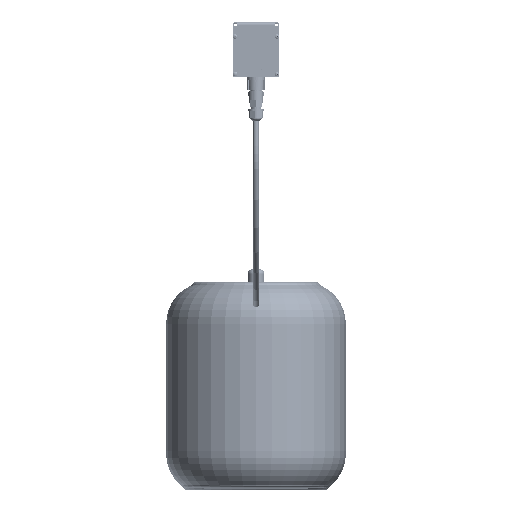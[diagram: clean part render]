
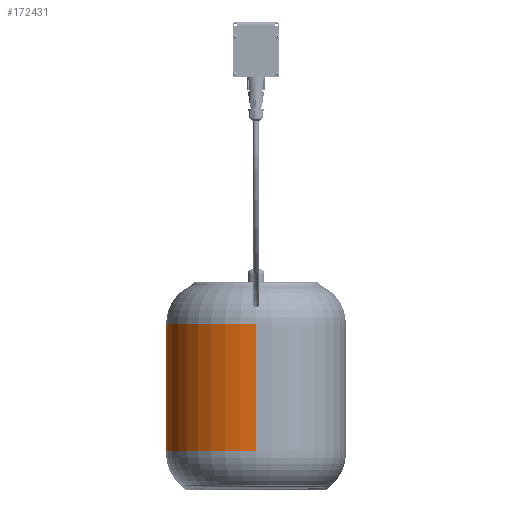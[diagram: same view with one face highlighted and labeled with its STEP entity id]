
A CAD part, top view. The second image highlights one B-rep face of the part: STEP entity #172431.
In plain terms, the highlighted cylindrical face has radius 107.5 mm (diameter 215 mm), a partial arc.
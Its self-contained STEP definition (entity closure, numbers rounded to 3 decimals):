
#337 = AXIS2_PLACEMENT_3D ( 'NONE', #171730, #23431, #74309 ) ;
#6753 = CARTESIAN_POINT ( 'NONE',  ( 0., 190.814, 0. ) ) ;
#7066 = VERTEX_POINT ( 'NONE', #70179 ) ;
#10774 = CARTESIAN_POINT ( 'NONE',  ( 0., 38.175, 0. ) ) ;
#11294 = EDGE_CURVE ( 'NONE', #44445, #162858, #138278, .T. ) ;
#12910 = DIRECTION ( 'NONE',  ( 0., 0., -1. ) ) ;
#23431 = DIRECTION ( 'NONE',  ( 0., -1., 0. ) ) ;
#28917 = CARTESIAN_POINT ( 'NONE',  ( 0., 38.175, -107.5 ) ) ;
#32264 = ORIENTED_EDGE ( 'NONE', *, *, #11294, .T. ) ;
#42855 = VECTOR ( 'NONE', #167981, 1000. ) ;
#44445 = VERTEX_POINT ( 'NONE', #212394 ) ;
#45492 = ORIENTED_EDGE ( 'NONE', *, *, #136469, .T. ) ;
#47658 = ORIENTED_EDGE ( 'NONE', *, *, #135105, .F. ) ;
#51446 = VERTEX_POINT ( 'NONE', #28917 ) ;
#51896 = AXIS2_PLACEMENT_3D ( 'NONE', #6753, #204820, #107387 ) ;
#57007 = FACE_OUTER_BOUND ( 'NONE', #213421, .T. ) ;
#61126 = DIRECTION ( 'NONE',  ( 0., -1., 0. ) ) ;
#64158 = VECTOR ( 'NONE', #61126, 1000. ) ;
#70179 = CARTESIAN_POINT ( 'NONE',  ( 0., 38.175, 107.5 ) ) ;
#73693 = ORIENTED_EDGE ( 'NONE', *, *, #212624, .F. ) ;
#74309 = DIRECTION ( 'NONE',  ( 0., 0., -1. ) ) ;
#93066 = DIRECTION ( 'NONE',  ( 0., -1., 0. ) ) ;
#93734 = CARTESIAN_POINT ( 'NONE',  ( 0., 190.814, 107.5 ) ) ;
#107387 = DIRECTION ( 'NONE',  ( 0., 0., -1. ) ) ;
#124108 = CYLINDRICAL_SURFACE ( 'NONE', #337, 107.5 ) ;
#135105 = EDGE_CURVE ( 'NONE', #51446, #7066, #142757, .T. ) ;
#136469 = EDGE_CURVE ( 'NONE', #162858, #7066, #143402, .T. ) ;
#138278 = CIRCLE ( 'NONE', #51896, 107.5 ) ;
#142757 = CIRCLE ( 'NONE', #184189, 107.5 ) ;
#143402 = LINE ( 'NONE', #209397, #64158 ) ;
#162858 = VERTEX_POINT ( 'NONE', #93734 ) ;
#167981 = DIRECTION ( 'NONE',  ( 0., -1., 0. ) ) ;
#171180 = LINE ( 'NONE', #199382, #42855 ) ;
#171730 = CARTESIAN_POINT ( 'NONE',  ( 0., 0., 0. ) ) ;
#172431 = ADVANCED_FACE ( 'NONE', ( #57007 ), #124108, .T. ) ;
#184189 = AXIS2_PLACEMENT_3D ( 'NONE', #10774, #93066, #12910 ) ;
#199382 = CARTESIAN_POINT ( 'NONE',  ( 0., 0., -107.5 ) ) ;
#204820 = DIRECTION ( 'NONE',  ( 0., -1., 0. ) ) ;
#209397 = CARTESIAN_POINT ( 'NONE',  ( 0., 0., 107.5 ) ) ;
#212394 = CARTESIAN_POINT ( 'NONE',  ( 0., 190.814, -107.5 ) ) ;
#212624 = EDGE_CURVE ( 'NONE', #44445, #51446, #171180, .T. ) ;
#213421 = EDGE_LOOP ( 'NONE', ( #32264, #45492, #47658, #73693 ) ) ;
